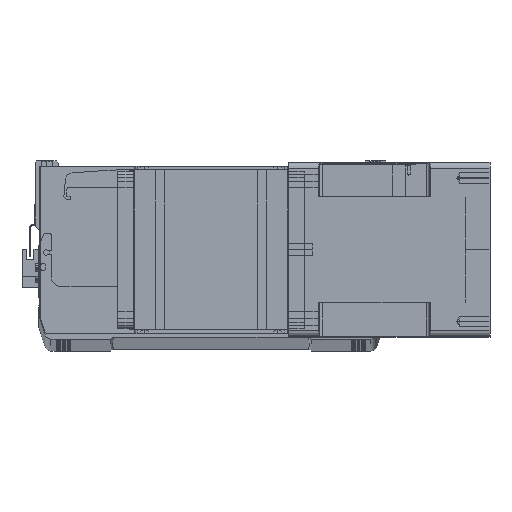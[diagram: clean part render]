
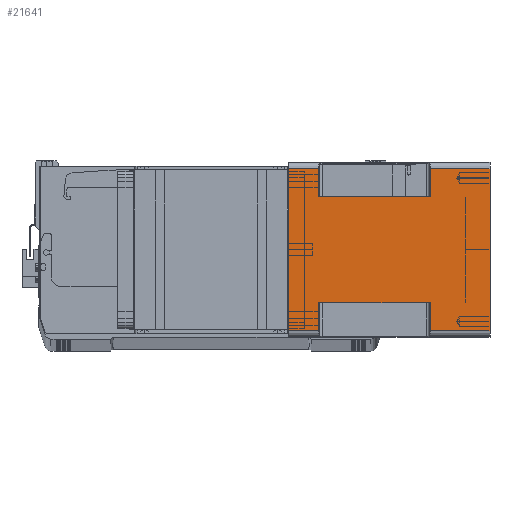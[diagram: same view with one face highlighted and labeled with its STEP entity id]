
A CAD part, top view. The second image highlights one B-rep face of the part: STEP entity #21641.
In plain terms, the highlighted planar face has unit normal (0, 0, 1) as drawn and (1, 0, 0) by its records, which use the part's own axes.
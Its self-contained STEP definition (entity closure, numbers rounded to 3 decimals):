
#718 = LINE ( 'NONE', #723, #7179 ) ;
#723 = CARTESIAN_POINT ( 'NONE',  ( 71., -66., -24.5 ) ) ;
#1206 = CARTESIAN_POINT ( 'NONE',  ( 71., 66., -24.5 ) ) ;
#3076 = CARTESIAN_POINT ( 'NONE',  ( 71., -43., -24.5 ) ) ;
#3577 = DIRECTION ( 'NONE',  ( 0., 1., 0. ) ) ;
#3896 = LINE ( 'NONE', #29985, #28676 ) ;
#4083 = CARTESIAN_POINT ( 'NONE',  ( 71., 43., -115.5 ) ) ;
#5010 = EDGE_CURVE ( 'NONE', #32357, #21288, #22484, .T. ) ;
#5109 = LINE ( 'NONE', #29977, #38276 ) ;
#5179 = VERTEX_POINT ( 'NONE', #1206 ) ;
#5202 = CARTESIAN_POINT ( 'NONE',  ( 71., 43., -115.5 ) ) ;
#5288 = ORIENTED_EDGE ( 'NONE', *, *, #40264, .T. ) ;
#6780 = CARTESIAN_POINT ( 'NONE',  ( 71., -66., 0. ) ) ;
#7179 = VECTOR ( 'NONE', #20478, 1000. ) ;
#7821 = VERTEX_POINT ( 'NONE', #5202 ) ;
#9267 = LINE ( 'NONE', #4083, #16753 ) ;
#9274 = ORIENTED_EDGE ( 'NONE', *, *, #24510, .T. ) ;
#10362 = CARTESIAN_POINT ( 'NONE',  ( 71., 66., -115.5 ) ) ;
#10494 = DIRECTION ( 'NONE',  ( 0., 0., 1. ) ) ;
#11065 = DIRECTION ( 'NONE',  ( 0., 0., 1. ) ) ;
#12385 = AXIS2_PLACEMENT_3D ( 'NONE', #35852, #16938, #20175 ) ;
#13017 = LINE ( 'NONE', #36404, #26439 ) ;
#13298 = ORIENTED_EDGE ( 'NONE', *, *, #13776, .T. ) ;
#13585 = ORIENTED_EDGE ( 'NONE', *, *, #38408, .F. ) ;
#13613 = CARTESIAN_POINT ( 'NONE',  ( 71., -66., -24.5 ) ) ;
#13776 = EDGE_CURVE ( 'NONE', #25682, #31435, #18038, .T. ) ;
#13976 = ORIENTED_EDGE ( 'NONE', *, *, #19558, .T. ) ;
#14103 = CARTESIAN_POINT ( 'NONE',  ( 71., -43., -115.5 ) ) ;
#14897 = CARTESIAN_POINT ( 'NONE',  ( 71., -66., 0. ) ) ;
#15159 = EDGE_CURVE ( 'NONE', #33335, #36843, #34138, .T. ) ;
#15207 = DIRECTION ( 'NONE',  ( 0., 0., 1. ) ) ;
#15540 = EDGE_LOOP ( 'NONE', ( #32584, #27912, #13585, #17862, #13298, #13976, #21375, #9274, #36943, #38679, #23507, #5288 ) ) ;
#15792 = CARTESIAN_POINT ( 'NONE',  ( 71., 66., -164. ) ) ;
#16028 = FACE_OUTER_BOUND ( 'NONE', #15540, .T. ) ;
#16206 = VECTOR ( 'NONE', #15207, 1000. ) ;
#16753 = VECTOR ( 'NONE', #38261, 1000. ) ;
#16938 = DIRECTION ( 'NONE',  ( 1., 0., 0. ) ) ;
#17416 = LINE ( 'NONE', #6780, #18909 ) ;
#17435 = DIRECTION ( 'NONE',  ( 0., 0., -1. ) ) ;
#17574 = VECTOR ( 'NONE', #10494, 1000. ) ;
#17862 = ORIENTED_EDGE ( 'NONE', *, *, #39724, .T. ) ;
#18038 = LINE ( 'NONE', #29310, #17574 ) ;
#18613 = CARTESIAN_POINT ( 'NONE',  ( 71., -66., -164. ) ) ;
#18909 = VECTOR ( 'NONE', #3577, 1000. ) ;
#18925 = EDGE_CURVE ( 'NONE', #21288, #24022, #17416, .T. ) ;
#19558 = EDGE_CURVE ( 'NONE', #31435, #7821, #9267, .T. ) ;
#20175 = DIRECTION ( 'NONE',  ( 0., 1., 0. ) ) ;
#20478 = DIRECTION ( 'NONE',  ( 0., 1., 0. ) ) ;
#20592 = CARTESIAN_POINT ( 'NONE',  ( 71., -66., -115.5 ) ) ;
#21162 = EDGE_CURVE ( 'NONE', #22058, #7821, #5109, .T. ) ;
#21288 = VERTEX_POINT ( 'NONE', #14897 ) ;
#21375 = ORIENTED_EDGE ( 'NONE', *, *, #21162, .F. ) ;
#21639 = CARTESIAN_POINT ( 'NONE',  ( 71., -66., -164. ) ) ;
#21641 = ADVANCED_FACE ( 'NONE', ( #16028 ), #26481, .T. ) ;
#22058 = VERTEX_POINT ( 'NONE', #34982 ) ;
#22484 = LINE ( 'NONE', #18613, #30787 ) ;
#23175 = EDGE_CURVE ( 'NONE', #5179, #24022, #3896, .T. ) ;
#23507 = ORIENTED_EDGE ( 'NONE', *, *, #5010, .F. ) ;
#23580 = LINE ( 'NONE', #34087, #28382 ) ;
#24022 = VERTEX_POINT ( 'NONE', #24232 ) ;
#24232 = CARTESIAN_POINT ( 'NONE',  ( 71., 66., 0. ) ) ;
#24350 = LINE ( 'NONE', #3076, #34675 ) ;
#24510 = EDGE_CURVE ( 'NONE', #22058, #5179, #718, .T. ) ;
#24863 = CARTESIAN_POINT ( 'NONE',  ( 71., -66., -164. ) ) ;
#25682 = VERTEX_POINT ( 'NONE', #15792 ) ;
#26439 = VECTOR ( 'NONE', #36267, 1000. ) ;
#26481 = PLANE ( 'NONE',  #12385 ) ;
#26522 = DIRECTION ( 'NONE',  ( 0., 0., 1. ) ) ;
#27912 = ORIENTED_EDGE ( 'NONE', *, *, #39554, .T. ) ;
#28382 = VECTOR ( 'NONE', #40346, 1000. ) ;
#28676 = VECTOR ( 'NONE', #11065, 1000. ) ;
#29310 = CARTESIAN_POINT ( 'NONE',  ( 71., 66., -164. ) ) ;
#29977 = CARTESIAN_POINT ( 'NONE',  ( 71., 43., -164. ) ) ;
#29985 = CARTESIAN_POINT ( 'NONE',  ( 71., 66., -164. ) ) ;
#30001 = LINE ( 'NONE', #21639, #16206 ) ;
#30659 = VERTEX_POINT ( 'NONE', #24863 ) ;
#30787 = VECTOR ( 'NONE', #40957, 1000. ) ;
#31300 = DIRECTION ( 'NONE',  ( 0., 1., 0. ) ) ;
#31435 = VERTEX_POINT ( 'NONE', #10362 ) ;
#32357 = VERTEX_POINT ( 'NONE', #13613 ) ;
#32584 = ORIENTED_EDGE ( 'NONE', *, *, #15159, .F. ) ;
#33335 = VERTEX_POINT ( 'NONE', #14103 ) ;
#33673 = CARTESIAN_POINT ( 'NONE',  ( 71., -43., -24.5 ) ) ;
#34087 = CARTESIAN_POINT ( 'NONE',  ( 71., -66., -164. ) ) ;
#34138 = LINE ( 'NONE', #39176, #40104 ) ;
#34675 = VECTOR ( 'NONE', #31300, 1000. ) ;
#34982 = CARTESIAN_POINT ( 'NONE',  ( 71., 43., -24.5 ) ) ;
#35852 = CARTESIAN_POINT ( 'NONE',  ( 71., -66., -164. ) ) ;
#36267 = DIRECTION ( 'NONE',  ( 0., -1., 0. ) ) ;
#36404 = CARTESIAN_POINT ( 'NONE',  ( 71., -66., -115.5 ) ) ;
#36843 = VERTEX_POINT ( 'NONE', #33673 ) ;
#36943 = ORIENTED_EDGE ( 'NONE', *, *, #23175, .T. ) ;
#37747 = VERTEX_POINT ( 'NONE', #20592 ) ;
#38261 = DIRECTION ( 'NONE',  ( 0., -1., 0. ) ) ;
#38276 = VECTOR ( 'NONE', #17435, 1000. ) ;
#38408 = EDGE_CURVE ( 'NONE', #30659, #37747, #30001, .T. ) ;
#38679 = ORIENTED_EDGE ( 'NONE', *, *, #18925, .F. ) ;
#39176 = CARTESIAN_POINT ( 'NONE',  ( 71., -43., -164. ) ) ;
#39554 = EDGE_CURVE ( 'NONE', #33335, #37747, #13017, .T. ) ;
#39724 = EDGE_CURVE ( 'NONE', #30659, #25682, #23580, .T. ) ;
#40104 = VECTOR ( 'NONE', #26522, 1000. ) ;
#40264 = EDGE_CURVE ( 'NONE', #32357, #36843, #24350, .T. ) ;
#40346 = DIRECTION ( 'NONE',  ( 0., 1., 0. ) ) ;
#40957 = DIRECTION ( 'NONE',  ( 0., 0., 1. ) ) ;
